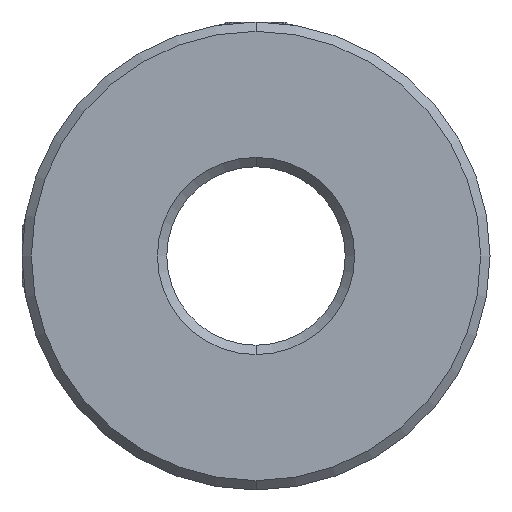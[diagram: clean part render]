
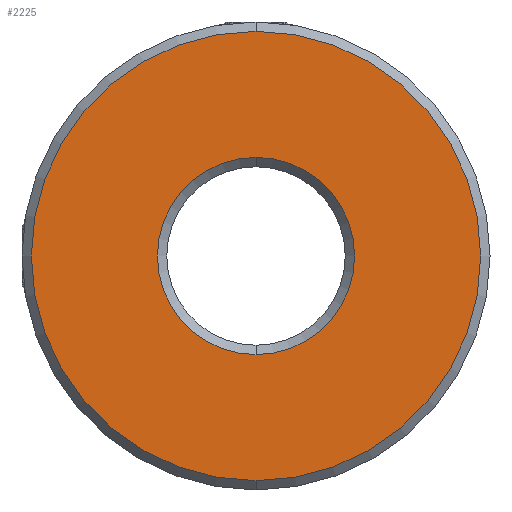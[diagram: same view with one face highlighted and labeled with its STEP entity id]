
A CAD part, front view. The second image highlights one B-rep face of the part: STEP entity #2225.
In plain terms, the highlighted planar face has unit normal (0, -1, 0).
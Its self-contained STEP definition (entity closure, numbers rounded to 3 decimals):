
#7 = FACE_BOUND ( 'NONE', #2305, .T. ) ;
#30 = ORIENTED_EDGE ( 'NONE', *, *, #1153, .T. ) ;
#179 = CARTESIAN_POINT ( 'NONE',  ( -10.188, -0.277, 5.311 ) ) ;
#188 = CARTESIAN_POINT ( 'NONE',  ( -10.188, -0.277, 0.046 ) ) ;
#253 = EDGE_CURVE ( 'NONE', #516, #3536, #1354, .T. ) ;
#468 = CARTESIAN_POINT ( 'NONE',  ( -10.188, -0.277, 0.046 ) ) ;
#516 = VERTEX_POINT ( 'NONE', #3398 ) ;
#768 = VERTEX_POINT ( 'NONE', #179 ) ;
#871 = CARTESIAN_POINT ( 'NONE',  ( -10.188, -0.277, 0.046 ) ) ;
#903 = CARTESIAN_POINT ( 'NONE',  ( -10.188, -0.277, 0.046 ) ) ;
#991 = ORIENTED_EDGE ( 'NONE', *, *, #3008, .T. ) ;
#1100 = FACE_OUTER_BOUND ( 'NONE', #1498, .T. ) ;
#1147 = AXIS2_PLACEMENT_3D ( 'NONE', #468, #2783, #3049 ) ;
#1153 = EDGE_CURVE ( 'NONE', #3536, #516, #3101, .T. ) ;
#1311 = CIRCLE ( 'NONE', #2771, 5.265 ) ;
#1354 = CIRCLE ( 'NONE', #1939, 12. ) ;
#1374 = EDGE_CURVE ( 'NONE', #2978, #768, #1311, .T. ) ;
#1394 = DIRECTION ( 'NONE',  ( 0., 0., 1. ) ) ;
#1498 = EDGE_LOOP ( 'NONE', ( #30, #3106 ) ) ;
#1515 = AXIS2_PLACEMENT_3D ( 'NONE', #903, #2038, #3164 ) ;
#1643 = DIRECTION ( 'NONE',  ( 0., 0., 1. ) ) ;
#1670 = DIRECTION ( 'NONE',  ( 0., 1., 0. ) ) ;
#1761 = DIRECTION ( 'NONE',  ( 0., 0., 1. ) ) ;
#1939 = AXIS2_PLACEMENT_3D ( 'NONE', #871, #2629, #1761 ) ;
#1970 = ORIENTED_EDGE ( 'NONE', *, *, #1374, .T. ) ;
#2038 = DIRECTION ( 'NONE',  ( 0., -1., 0. ) ) ;
#2225 = ADVANCED_FACE ( 'NONE', ( #1100, #7 ), #3415, .F. ) ;
#2305 = EDGE_LOOP ( 'NONE', ( #1970, #991 ) ) ;
#2629 = DIRECTION ( 'NONE',  ( 0., -1., 0. ) ) ;
#2654 = AXIS2_PLACEMENT_3D ( 'NONE', #3149, #1670, #1394 ) ;
#2722 = DIRECTION ( 'NONE',  ( 0., 1., 0. ) ) ;
#2762 = CARTESIAN_POINT ( 'NONE',  ( -10.188, -0.277, -5.219 ) ) ;
#2771 = AXIS2_PLACEMENT_3D ( 'NONE', #188, #2722, #1643 ) ;
#2783 = DIRECTION ( 'NONE',  ( 0., 1., 0. ) ) ;
#2978 = VERTEX_POINT ( 'NONE', #2762 ) ;
#3008 = EDGE_CURVE ( 'NONE', #768, #2978, #3213, .T. ) ;
#3049 = DIRECTION ( 'NONE',  ( 0., 0., 1. ) ) ;
#3059 = CARTESIAN_POINT ( 'NONE',  ( -10.188, -0.277, 12.046 ) ) ;
#3101 = CIRCLE ( 'NONE', #1515, 12. ) ;
#3106 = ORIENTED_EDGE ( 'NONE', *, *, #253, .T. ) ;
#3149 = CARTESIAN_POINT ( 'NONE',  ( -10.188, -0.277, 0.046 ) ) ;
#3164 = DIRECTION ( 'NONE',  ( 0., 0., 1. ) ) ;
#3213 = CIRCLE ( 'NONE', #1147, 5.265 ) ;
#3398 = CARTESIAN_POINT ( 'NONE',  ( -10.188, -0.277, -11.954 ) ) ;
#3415 = PLANE ( 'NONE',  #2654 ) ;
#3536 = VERTEX_POINT ( 'NONE', #3059 ) ;
